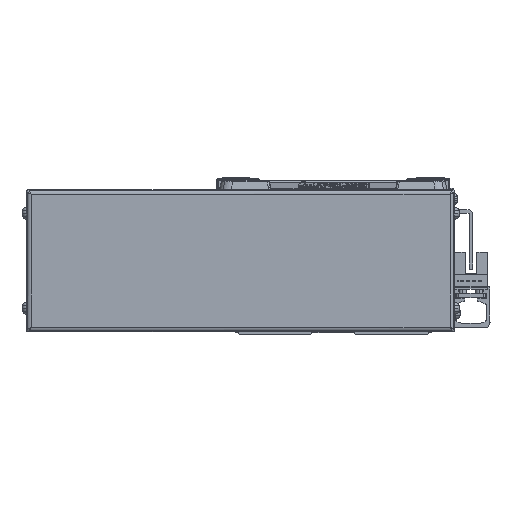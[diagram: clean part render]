
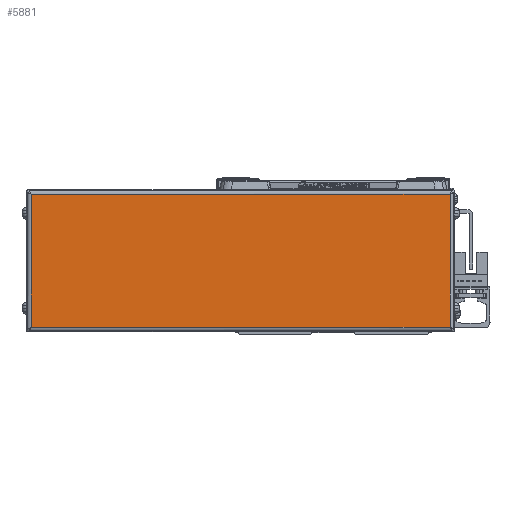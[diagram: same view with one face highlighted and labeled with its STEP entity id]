
A CAD part, left-side view. The second image highlights one B-rep face of the part: STEP entity #5881.
In plain terms, the highlighted planar face has unit normal (-1, 0, 0).
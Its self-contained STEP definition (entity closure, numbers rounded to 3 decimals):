
#5881=ADVANCED_FACE('',(#12496),#12497,.F.);
#12496=FACE_OUTER_BOUND('',#20519,.T.);
#12497=PLANE('',#20520);
#20519=EDGE_LOOP('',(#37195,#37196,#37197,#37198));
#20520=AXIS2_PLACEMENT_3D('',#37199,#37200,#37201);
#37195=ORIENTED_EDGE('',*,*,#50555,.T.);
#37196=ORIENTED_EDGE('',*,*,#51217,.T.);
#37197=ORIENTED_EDGE('',*,*,#51218,.T.);
#37198=ORIENTED_EDGE('',*,*,#46017,.T.);
#37199=CARTESIAN_POINT('',(-616.,39.,0.));
#37200=DIRECTION('',(1.0,0.,0.));
#37201=DIRECTION('',(0.,0.,1.0));
#46017=EDGE_CURVE('',#55635,#55633,#55636,.T.);
#50555=EDGE_CURVE('',#55633,#62481,#62483,.T.);
#51217=EDGE_CURVE('',#62481,#57221,#63305,.T.);
#51218=EDGE_CURVE('',#57221,#55635,#63306,.T.);
#55633=VERTEX_POINT('',#68844);
#55635=VERTEX_POINT('',#68846);
#55636=LINE('',#68847,#68848);
#57221=VERTEX_POINT('',#70992);
#62481=VERTEX_POINT('',#78305);
#62483=LINE('',#78307,#78308);
#63305=LINE('',#79527,#79528);
#63306=LINE('',#79529,#79530);
#68844=CARTESIAN_POINT('',(-616.,-49.2,28.));
#68846=CARTESIAN_POINT('',(-616.,-49.2,-28.));
#68847=CARTESIAN_POINT('',(-616.,-49.2,0.));
#68848=VECTOR('',#84017,10.0);
#70992=CARTESIAN_POINT('',(-616.0,127.2,-28.));
#78305=CARTESIAN_POINT('',(-616.0,127.2,28.));
#78307=CARTESIAN_POINT('',(-616.,39.,28.));
#78308=VECTOR('',#89962,10.0);
#79527=CARTESIAN_POINT('',(-616.0,127.2,0.));
#79528=VECTOR('',#90666,10.0);
#79529=CARTESIAN_POINT('',(-616.0,39.,-28.));
#79530=VECTOR('',#90667,10.0);
#84017=DIRECTION('',(0.,0.,1.0));
#89962=DIRECTION('',(0.,1.0,0.));
#90666=DIRECTION('',(0.,0.,-1.0));
#90667=DIRECTION('',(0.,-1.0,0.));
